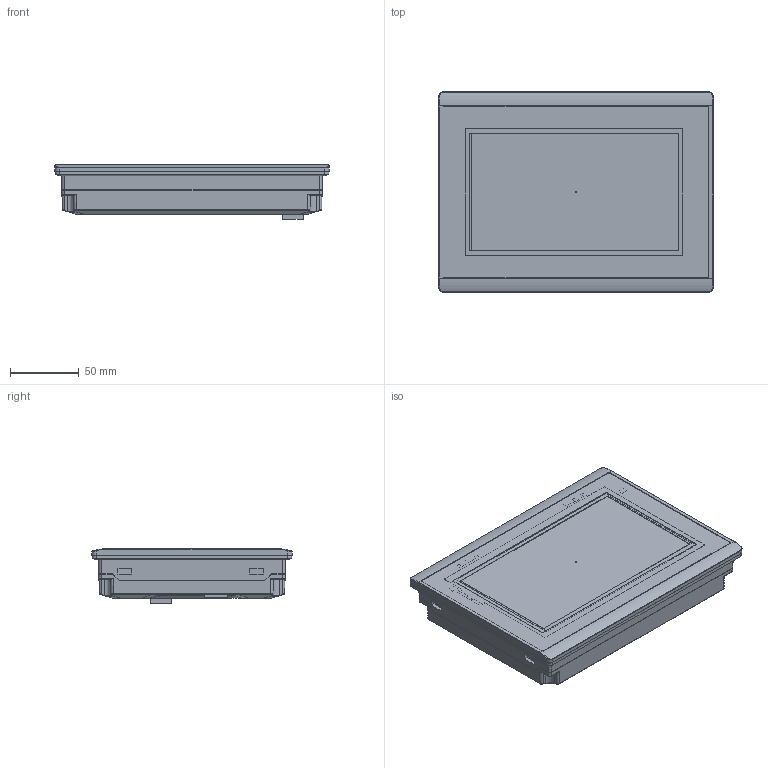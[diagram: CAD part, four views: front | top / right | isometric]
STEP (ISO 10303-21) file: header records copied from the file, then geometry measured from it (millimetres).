
FILE_DESCRIPTION((''),'2;1');
FILE_NAME('Z:\黃世程\4_可提供給客戶3D檔案\1_3D\EC207-CT0S 3D.stp','2014-03-18T14:20:45',('11254'),(''),'Autodesk Inventor 2008','Autodesk Inventor 2008','');
FILE_SCHEMA(('AUTOMOTIVE_DESIGN { 1 0 10303 214 1 1 1 1 }'));
Length unit declared in the file: millimetre
Products named in the file (1): EC207-CT0S 3D
Bounding box: 200 x 146 x 39.9 mm (x, y, z)
Volume: 334378.8 mm3; surface area: 253871 mm2
Topology: 3 solids, 4 shells, 3209 faces, 9031 edges, 5900 vertices
Faces by surface type: plane 2308, cylinder 558, bspline 157, torus 118, cone 59, sphere 9
Full cylindrical faces by diameter (mm): 0.5 x4, 0.6 x2, 0.8 x3, 0.9 x8, 1 x37, 1.275 x1, 1.466 x1, 2 x5, 2.5 x9, 2.693 x1, 3 x70, 3.1 x2, 3.2 x1, 3.5 x5, 3.909 x1, 5 x3, 6 x2, 10 x2, 19.5 x1
Entity records: 112919 total; most frequent: CARTESIAN_POINT 27085, ORIENTED_EDGE 17516, DIRECTION 16265, EDGE_CURVE 8758, VECTOR 6731, LINE 6731, VERTEX_POINT 5892, AXIS2_PLACEMENT_3D 4767
